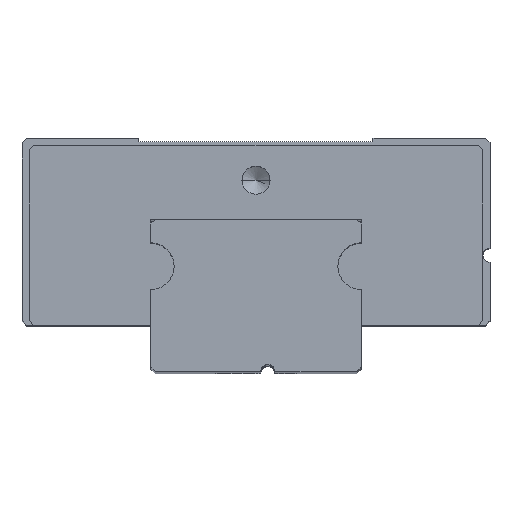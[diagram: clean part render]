
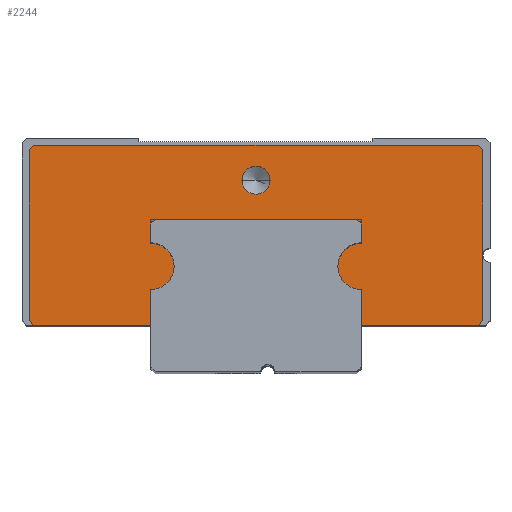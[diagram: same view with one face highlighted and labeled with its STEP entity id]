
A CAD part, top view. The second image highlights one B-rep face of the part: STEP entity #2244.
In plain terms, the highlighted planar face has unit normal (0, 0, 1).
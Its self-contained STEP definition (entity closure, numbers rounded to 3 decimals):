
#1287=CARTESIAN_POINT('',(-4.5,4.5,14.45));
#1288=DIRECTION('',(0.,0.,-1.));
#1289=DIRECTION('',(0.,1.,0.));
#1290=AXIS2_PLACEMENT_3D('',#1287,#1288,#1289);
#1292=DIRECTION('',(1.,0.,0.));
#1293=VECTOR('',#1292,5.);
#1294=CARTESIAN_POINT('',(-9.5,2.,14.45));
#1295=LINE('',#1294,#1293);
#1296=DIRECTION('',(0.707,-0.707,0.));
#1297=VECTOR('',#1296,0.283);
#1298=CARTESIAN_POINT('',(-9.7,2.2,14.45));
#1299=LINE('',#1298,#1297);
#1300=DIRECTION('',(0.,-1.,0.));
#1301=VECTOR('',#1300,7.3);
#1302=CARTESIAN_POINT('',(-9.7,9.5,14.45));
#1303=LINE('',#1302,#1301);
#1304=DIRECTION('',(-0.707,-0.707,0.));
#1305=VECTOR('',#1304,0.283);
#1306=CARTESIAN_POINT('',(-9.5,9.7,14.45));
#1307=LINE('',#1306,#1305);
#1308=DIRECTION('',(-1.,0.,0.));
#1309=VECTOR('',#1308,19.);
#1310=CARTESIAN_POINT('',(9.5,9.7,14.45));
#1311=LINE('',#1310,#1309);
#1312=DIRECTION('',(-0.707,0.707,0.));
#1313=VECTOR('',#1312,0.283);
#1314=CARTESIAN_POINT('',(9.7,9.5,14.45));
#1315=LINE('',#1314,#1313);
#1316=DIRECTION('',(0.707,0.707,0.));
#1317=VECTOR('',#1316,0.283);
#1318=CARTESIAN_POINT('',(9.5,2.,14.45));
#1319=LINE('',#1318,#1317);
#1320=DIRECTION('',(1.,0.,0.));
#1321=VECTOR('',#1320,5.);
#1322=CARTESIAN_POINT('',(4.5,2.,14.45));
#1323=LINE('',#1322,#1321);
#1324=CARTESIAN_POINT('',(4.5,4.5,14.45));
#1325=DIRECTION('',(0.,0.,-1.));
#1326=DIRECTION('',(0.,-1.,0.));
#1327=AXIS2_PLACEMENT_3D('',#1324,#1325,#1326);
#1329=CARTESIAN_POINT('',(0.,8.2,14.45));
#1330=DIRECTION('',(0.,0.,-1.));
#1331=DIRECTION('',(-1.,0.,0.));
#1332=AXIS2_PLACEMENT_3D('',#1329,#1330,#1331);
#1334=CARTESIAN_POINT('',(0.,8.2,14.45));
#1335=DIRECTION('',(0.,0.,-1.));
#1336=DIRECTION('',(1.,0.,0.));
#1337=AXIS2_PLACEMENT_3D('',#1334,#1335,#1336);
#1415=DIRECTION('',(0.,-1.,0.));
#1416=VECTOR('',#1415,1.);
#1417=CARTESIAN_POINT('',(-4.5,6.5,14.45));
#1418=LINE('',#1417,#1416);
#1423=DIRECTION('',(-1.,0.,0.));
#1424=VECTOR('',#1423,9.);
#1425=CARTESIAN_POINT('',(4.5,6.5,14.45));
#1426=LINE('',#1425,#1424);
#1431=DIRECTION('',(0.,1.,0.));
#1432=VECTOR('',#1431,1.);
#1433=CARTESIAN_POINT('',(4.5,5.5,14.45));
#1434=LINE('',#1433,#1432);
#1443=DIRECTION('',(0.,1.,0.));
#1444=VECTOR('',#1443,1.5);
#1445=CARTESIAN_POINT('',(4.5,2.,14.45));
#1446=LINE('',#1445,#1444);
#1492=DIRECTION('',(0.,-1.,0.));
#1493=VECTOR('',#1492,7.3);
#1494=CARTESIAN_POINT('',(9.7,9.5,14.45));
#1495=LINE('',#1494,#1493);
#1646=DIRECTION('',(0.,-1.,0.));
#1647=VECTOR('',#1646,1.5);
#1648=CARTESIAN_POINT('',(-4.5,3.5,14.45));
#1649=LINE('',#1648,#1647);
#1983=CARTESIAN_POINT('',(9.7,9.5,14.45));
#1984=CARTESIAN_POINT('',(9.7,2.2,14.45));
#1985=VERTEX_POINT('',#1983);
#1986=VERTEX_POINT('',#1984);
#1987=CARTESIAN_POINT('',(9.5,9.7,14.45));
#1988=VERTEX_POINT('',#1987);
#1989=CARTESIAN_POINT('',(-9.5,9.7,14.45));
#1990=VERTEX_POINT('',#1989);
#1991=CARTESIAN_POINT('',(-9.7,9.5,14.45));
#1992=VERTEX_POINT('',#1991);
#1993=CARTESIAN_POINT('',(-9.7,2.2,14.45));
#1994=VERTEX_POINT('',#1993);
#1995=CARTESIAN_POINT('',(-9.5,2.,14.45));
#1996=VERTEX_POINT('',#1995);
#1997=CARTESIAN_POINT('',(-4.5,2.,14.45));
#1998=VERTEX_POINT('',#1997);
#1999=CARTESIAN_POINT('',(-4.5,3.5,14.45));
#2000=VERTEX_POINT('',#1999);
#2001=CARTESIAN_POINT('',(-4.5,6.5,14.45));
#2002=CARTESIAN_POINT('',(-4.5,5.5,14.45));
#2003=VERTEX_POINT('',#2001);
#2004=VERTEX_POINT('',#2002);
#2005=CARTESIAN_POINT('',(4.5,6.5,14.45));
#2006=VERTEX_POINT('',#2005);
#2007=CARTESIAN_POINT('',(4.5,5.5,14.45));
#2008=VERTEX_POINT('',#2007);
#2009=CARTESIAN_POINT('',(4.5,2.,14.45));
#2010=CARTESIAN_POINT('',(4.5,3.5,14.45));
#2011=VERTEX_POINT('',#2009);
#2012=VERTEX_POINT('',#2010);
#2013=CARTESIAN_POINT('',(9.5,2.,14.45));
#2014=VERTEX_POINT('',#2013);
#2185=CARTESIAN_POINT('',(-0.6,8.2,14.45));
#2186=VERTEX_POINT('',#2185);
#2187=CARTESIAN_POINT('',(0.6,8.2,14.45));
#2188=VERTEX_POINT('',#2187);
#2199=CARTESIAN_POINT('',(10.,5.,14.45));
#2200=DIRECTION('',(0.,0.,1.));
#2201=DIRECTION('',(1.,0.,0.));
#2202=AXIS2_PLACEMENT_3D('',#2199,#2200,#2201);
#2203=PLANE('',#2202);
#2205=ORIENTED_EDGE('',*,*,#2204,.T.);
#2207=ORIENTED_EDGE('',*,*,#2206,.T.);
#2209=ORIENTED_EDGE('',*,*,#2208,.F.);
#2211=ORIENTED_EDGE('',*,*,#2210,.F.);
#2213=ORIENTED_EDGE('',*,*,#2212,.F.);
#2215=ORIENTED_EDGE('',*,*,#2214,.F.);
#2217=ORIENTED_EDGE('',*,*,#2216,.F.);
#2219=ORIENTED_EDGE('',*,*,#2218,.F.);
#2221=ORIENTED_EDGE('',*,*,#2220,.T.);
#2223=ORIENTED_EDGE('',*,*,#2222,.F.);
#2225=ORIENTED_EDGE('',*,*,#2224,.F.);
#2227=ORIENTED_EDGE('',*,*,#2226,.T.);
#2229=ORIENTED_EDGE('',*,*,#2228,.T.);
#2231=ORIENTED_EDGE('',*,*,#2230,.T.);
#2233=ORIENTED_EDGE('',*,*,#2232,.T.);
#2235=ORIENTED_EDGE('',*,*,#2234,.T.);
#2236=EDGE_LOOP('',(#2205,#2207,#2209,#2211,#2213,#2215,#2217,#2219,#2221,#2223,
#2225,#2227,#2229,#2231,#2233,#2235));
#2237=FACE_OUTER_BOUND('',#2236,.F.);
#2239=ORIENTED_EDGE('',*,*,#2238,.F.);
#2241=ORIENTED_EDGE('',*,*,#2240,.F.);
#2242=EDGE_LOOP('',(#2239,#2241));
#2243=FACE_BOUND('',#2242,.F.);
#2244=ADVANCED_FACE('',(#2237,#2243),#2203,.T.);
#1291=CIRCLE('',#1290,1.);
#1328=CIRCLE('',#1327,1.);
#1333=CIRCLE('',#1332,0.6);
#1338=CIRCLE('',#1337,0.6);
#2204=EDGE_CURVE('',#2004,#2000,#1291,.T.);
#2206=EDGE_CURVE('',#2000,#1998,#1649,.T.);
#2208=EDGE_CURVE('',#1996,#1998,#1295,.T.);
#2210=EDGE_CURVE('',#1994,#1996,#1299,.T.);
#2212=EDGE_CURVE('',#1992,#1994,#1303,.T.);
#2214=EDGE_CURVE('',#1990,#1992,#1307,.T.);
#2216=EDGE_CURVE('',#1988,#1990,#1311,.T.);
#2218=EDGE_CURVE('',#1985,#1988,#1315,.T.);
#2220=EDGE_CURVE('',#1985,#1986,#1495,.T.);
#2222=EDGE_CURVE('',#2014,#1986,#1319,.T.);
#2224=EDGE_CURVE('',#2011,#2014,#1323,.T.);
#2226=EDGE_CURVE('',#2011,#2012,#1446,.T.);
#2228=EDGE_CURVE('',#2012,#2008,#1328,.T.);
#2230=EDGE_CURVE('',#2008,#2006,#1434,.T.);
#2232=EDGE_CURVE('',#2006,#2003,#1426,.T.);
#2234=EDGE_CURVE('',#2003,#2004,#1418,.T.);
#2238=EDGE_CURVE('',#2186,#2188,#1333,.T.);
#2240=EDGE_CURVE('',#2188,#2186,#1338,.T.);
